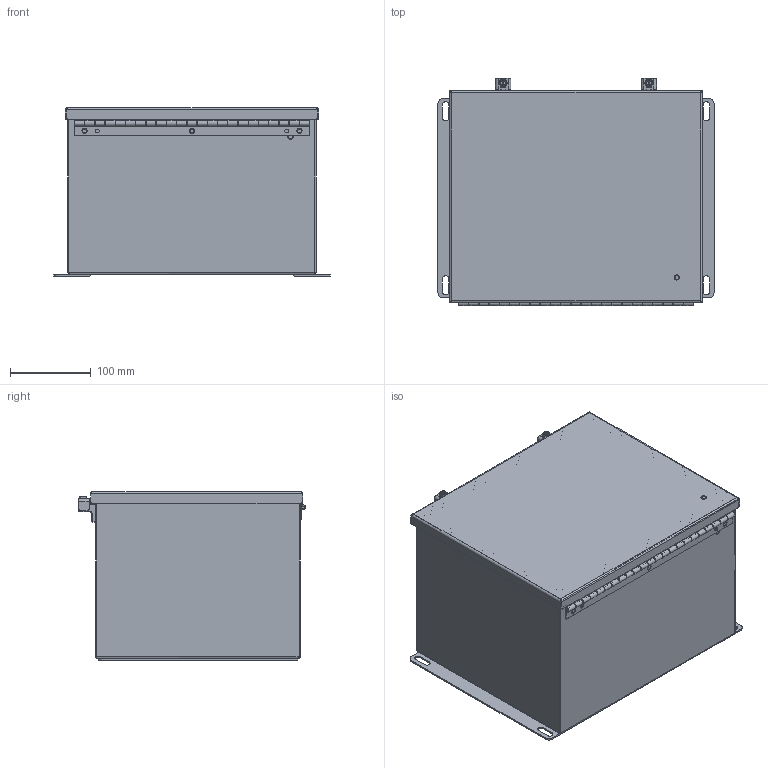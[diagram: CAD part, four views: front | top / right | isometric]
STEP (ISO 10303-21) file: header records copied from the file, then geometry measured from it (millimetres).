
FILE_DESCRIPTION((''),'2;1');
FILE_NAME('MODEL-332_ASM','2025-07-02T09:49:19',('joshi'),('SAGINAW CONTROL & ENGINEERING'),'CREO PARAMETRIC BY PTC INC, 2021284','CREO PARAMETRIC BY PTC INC, 2021284','');
FILE_SCHEMA(('AUTOMOTIVE_DESIGN { 1 0 10303 214 1 1 1 1 }'));
Length unit declared in the file: inch
Products named in the file (22): MODEL-332-BDY; MODEL-332-DR; 100097; 100012; 125828-BASE; 125828-PEM-STUD; 125828-CLAMP; 125828-BOLT; 125828_ASM; 100897; 130029; 122255; MODEL-332-HNG-PN; MODEL-332-HNG-BX; MODEL-332-HNG-DR; 100067; MODEL-332-HNG_ASM; MODEL-332-GSKT; CH-ELJ_SUBPANEL; 102479; CH-ELJ_SUBPANEL-SUBASSEMBLY_ASM; MODEL-332_ASM
Assembly tree (36 placements, depth 3):
  MODEL-332_ASM
    MODEL-332-BDY
    MODEL-332-DR
    100097  x2
    100012  x4
    125828_ASM  x2
      125828-BASE
      125828-PEM-STUD
      125828-CLAMP
      125828-BOLT
    100897  x5
    130029  x2
    122255
    MODEL-332-HNG_ASM
      MODEL-332-HNG-PN
      MODEL-332-HNG-BX
      MODEL-332-HNG-DR
      100067  x3
    MODEL-332-GSKT
    CH-ELJ_SUBPANEL-SUBASSEMBLY_ASM
      CH-ELJ_SUBPANEL
      102479  x4
Bounding box: 342.9 x 282.05 x 209.93 mm (x, y, z)
Volume: 863667 mm3; surface area: 1066010.4 mm2
Topology: 35 solids, 35 shells, 1851 faces, 4556 edges, 2728 vertices
Faces by surface type: plane 819, cylinder 602, bspline 214, torus 110, sphere 56, cone 50
Entity records: 56511 total; most frequent: CARTESIAN_POINT 18799, ORIENTED_EDGE 5370, DIRECTION 5281, PRESENTATION_STYLE_ASSIGNMENT 2702, STYLED_ITEM 2702, CURVE_STYLE 2685, EDGE_CURVE 2685, AXIS2_PLACEMENT_3D 1836
